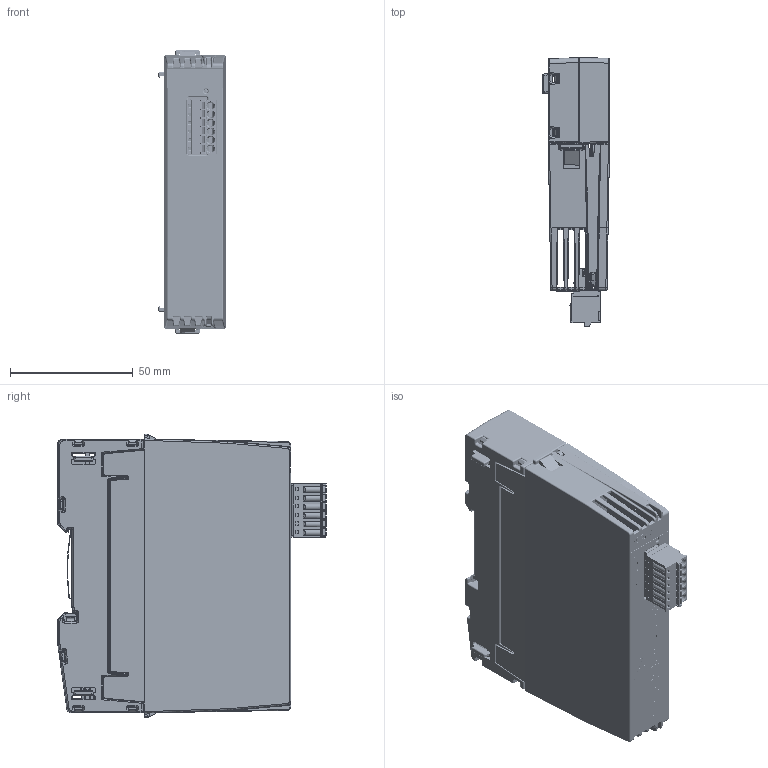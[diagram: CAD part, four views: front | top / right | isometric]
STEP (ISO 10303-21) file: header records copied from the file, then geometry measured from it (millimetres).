
FILE_DESCRIPTION(/* description */ (''),/* implementation_level */ '2;1');
FILE_NAME(/* name */ 'C:\Users\Public\Documents\Autodesk\Inventor 2023\PS24A_Simplified+BackBB21A.stp',/* time_stamp */ '2024-10-19T00:04:49+02:00',/* author */ ('shoma'),/* organization */ (''),/* preprocessor_version */ 'ST-DEVELOPER v19',/* originating_system */ 'Autodesk Inventor 2023',/* authorisation */ '');
FILE_SCHEMA (('AUTOMOTIVE_DESIGN { 1 0 10303 214 3 1 1 }'));
Products named in the file (1): PS24A_Simplified+BackBB21A
Bounding box: 27.4 x 109.39 x 115.5 mm (x, y, z)
Volume: 114464.4 mm3; surface area: 82320.1 mm2
Topology: 7 solids, 25 shells, 7231 faces, 19727 edges, 12465 vertices
Faces by surface type: plane 4563, cylinder 1784, bspline 627, sphere 160, cone 70, torus 27
Full cylindrical faces by diameter (mm): 0.296 x1, 0.3 x186, 0.457 x1, 0.7 x36, 0.8 x8, 0.85 x24, 0.9 x8, 1.17 x6, 1.2 x6, 1.25 x6, 1.3 x10, 1.4 x4, 1.6 x7, 2.35 x2, 2.5 x1, 3 x1, 3.1 x6, 3.25 x2
Entity records: 254035 total; most frequent: CARTESIAN_POINT 64363, ORIENTED_EDGE 39118, DIRECTION 36004, EDGE_CURVE 19559, LINE 14460, VECTOR 14460, VERTEX_POINT 12460, AXIS2_PLACEMENT_3D 10772
